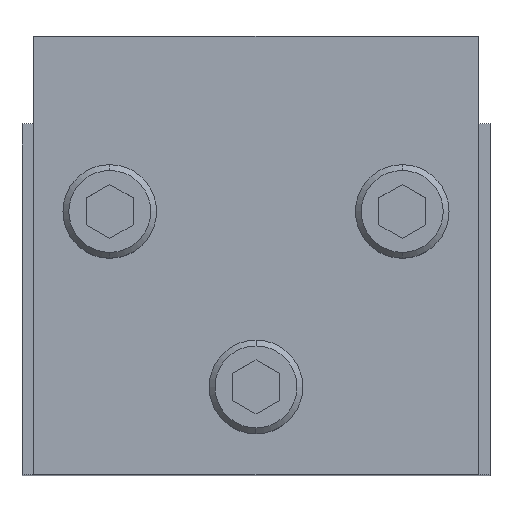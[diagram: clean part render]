
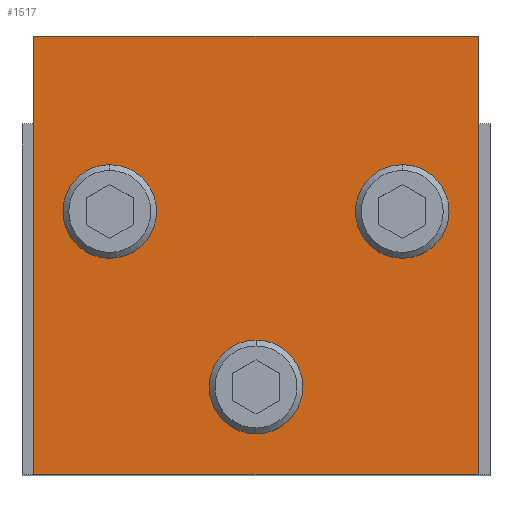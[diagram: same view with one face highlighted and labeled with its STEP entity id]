
A CAD part, top view. The second image highlights one B-rep face of the part: STEP entity #1517.
In plain terms, the highlighted planar face has unit normal (0, 0, 1).
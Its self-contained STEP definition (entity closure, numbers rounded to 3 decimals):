
#1292=VERTEX_POINT(' ',#1293);
#1293=CARTESIAN_POINT('',(-38.,75.,115.));
#1294=VERTEX_POINT(' ',#1295);
#1295=CARTESIAN_POINT('',(-38.,0.,115.));
#1296=VERTEX_POINT(' ',#1297);
#1297=CARTESIAN_POINT('',(38.,0.,115.));
#1298=VERTEX_POINT(' ',#1299);
#1299=CARTESIAN_POINT('',(38.,75.,115.));
#1300=VERTEX_POINT(' ',#1301);
#1301=CARTESIAN_POINT('',(-25.,50.5,115.));
#1302=VERTEX_POINT(' ',#1303);
#1303=CARTESIAN_POINT('',(-25.,39.5,115.));
#1304=VERTEX_POINT(' ',#1305);
#1305=CARTESIAN_POINT('',(25.,50.5,115.));
#1306=VERTEX_POINT(' ',#1307);
#1307=CARTESIAN_POINT('',(25.,39.5,115.));
#1308=VERTEX_POINT(' ',#1309);
#1309=CARTESIAN_POINT('',(0.,20.5,115.));
#1310=VERTEX_POINT(' ',#1311);
#1311=CARTESIAN_POINT('',(0.,9.5,115.));
#1332=LINE('',#1333,#1334);
#1333=CARTESIAN_POINT('',(-38.,75.,115.));
#1334=VECTOR('',#1335,1.);
#1335=DIRECTION('',(0.,-1.,0.));
#1336=EDGE_CURVE(' ',#1292,#1294,#1332,.T.);
#1337=LINE('',#1338,#1339);
#1338=CARTESIAN_POINT('',(-38.,0.,115.));
#1339=VECTOR('',#1340,1.);
#1340=DIRECTION('',(1.,0.,0.));
#1341=EDGE_CURVE(' ',#1294,#1296,#1337,.T.);
#1342=LINE('',#1343,#1344);
#1343=CARTESIAN_POINT('',(38.,0.,115.));
#1344=VECTOR('',#1345,1.);
#1345=DIRECTION('',(0.,1.,0.));
#1346=EDGE_CURVE(' ',#1296,#1298,#1342,.T.);
#1347=LINE('',#1348,#1349);
#1348=CARTESIAN_POINT('',(38.,75.,115.));
#1349=VECTOR('',#1350,1.);
#1350=DIRECTION('',(-1.,0.,0.));
#1351=EDGE_CURVE(' ',#1298,#1292,#1347,.T.);
#1352=CIRCLE('',#1353,5.5);
#1353=AXIS2_PLACEMENT_3D('',#1354,#1355,#1356);
#1354=CARTESIAN_POINT('',(-25.,45.,115.));
#1355=DIRECTION('',(0.,0.,-1.));
#1356=DIRECTION('',(-1.,0.,0.));
#1357=EDGE_CURVE(' ',#1300,#1302,#1352,.T.);
#1358=CIRCLE('',#1359,5.5);
#1359=AXIS2_PLACEMENT_3D('',#1360,#1361,#1362);
#1360=CARTESIAN_POINT('',(-25.,45.,115.));
#1361=DIRECTION('',(0.,0.,-1.));
#1362=DIRECTION('',(1.,0.,0.));
#1363=EDGE_CURVE(' ',#1302,#1300,#1358,.T.);
#1364=CIRCLE('',#1365,5.5);
#1365=AXIS2_PLACEMENT_3D('',#1366,#1367,#1368);
#1366=CARTESIAN_POINT('',(25.,45.,115.));
#1367=DIRECTION('',(0.,0.,-1.));
#1368=DIRECTION('',(-1.,0.,0.));
#1369=EDGE_CURVE(' ',#1304,#1306,#1364,.T.);
#1370=CIRCLE('',#1371,5.5);
#1371=AXIS2_PLACEMENT_3D('',#1372,#1373,#1374);
#1372=CARTESIAN_POINT('',(25.,45.,115.));
#1373=DIRECTION('',(0.,0.,-1.));
#1374=DIRECTION('',(1.,0.,0.));
#1375=EDGE_CURVE(' ',#1306,#1304,#1370,.T.);
#1376=CIRCLE('',#1377,5.5);
#1377=AXIS2_PLACEMENT_3D('',#1378,#1379,#1380);
#1378=CARTESIAN_POINT('',(0.,15.,115.));
#1379=DIRECTION('',(0.,0.,-1.));
#1380=DIRECTION('',(-1.,0.,0.));
#1381=EDGE_CURVE(' ',#1308,#1310,#1376,.T.);
#1382=CIRCLE('',#1383,5.5);
#1383=AXIS2_PLACEMENT_3D('',#1384,#1385,#1386);
#1384=CARTESIAN_POINT('',(0.,15.,115.));
#1385=DIRECTION('',(0.,0.,-1.));
#1386=DIRECTION('',(1.,0.,0.));
#1387=EDGE_CURVE(' ',#1310,#1308,#1382,.T.);
#1494=ORIENTED_EDGE('',*,*,#1336,.T.);
#1495=ORIENTED_EDGE('',*,*,#1341,.T.);
#1496=ORIENTED_EDGE('',*,*,#1346,.T.);
#1497=ORIENTED_EDGE('',*,*,#1351,.T.);
#1498=EDGE_LOOP('',(#1494,#1495,#1496,#1497));
#1499=FACE_OUTER_BOUND('',#1498,.T.);
#1500=ORIENTED_EDGE('',*,*,#1357,.T.);
#1501=ORIENTED_EDGE('',*,*,#1363,.T.);
#1502=EDGE_LOOP('',(#1500,#1501));
#1503=FACE_BOUND('',#1502,.T.);
#1504=ORIENTED_EDGE('',*,*,#1369,.T.);
#1505=ORIENTED_EDGE('',*,*,#1375,.T.);
#1506=EDGE_LOOP('',(#1504,#1505));
#1507=FACE_BOUND('',#1506,.T.);
#1508=ORIENTED_EDGE('',*,*,#1381,.T.);
#1509=ORIENTED_EDGE('',*,*,#1387,.T.);
#1510=EDGE_LOOP('',(#1508,#1509));
#1511=FACE_BOUND('',#1510,.T.);
#1512=PLANE('',#1513);
#1513=AXIS2_PLACEMENT_3D('',#1514,#1515,#1516);
#1514=CARTESIAN_POINT('',(-38.,75.,115.));
#1515=DIRECTION('',(0.,0.,1.));
#1516=DIRECTION('',(1.,0.,0.));
#1517=ADVANCED_FACE('',(#1499,#1503,#1507,#1511),#1512,.T.);
